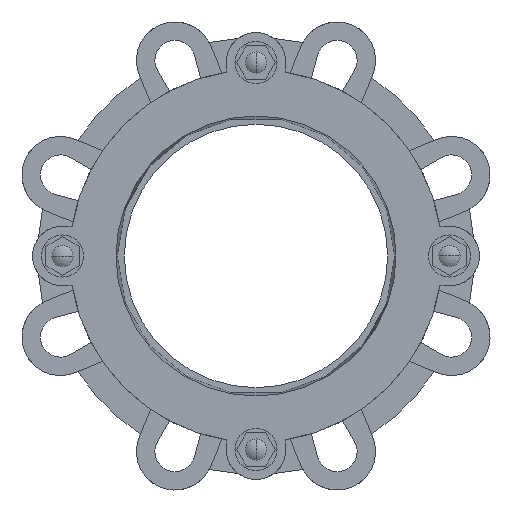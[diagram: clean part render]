
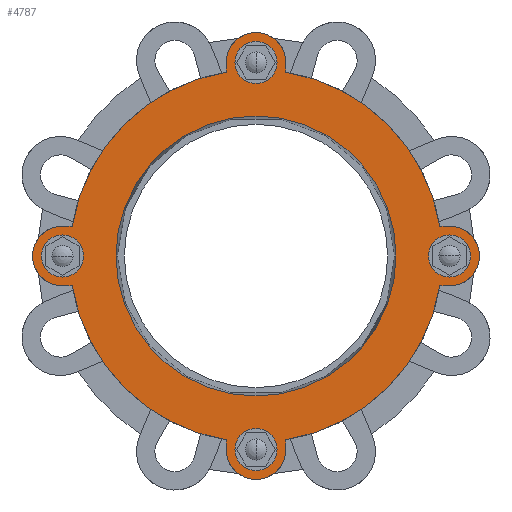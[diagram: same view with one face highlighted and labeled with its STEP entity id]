
A CAD part, left-side view. The second image highlights one B-rep face of the part: STEP entity #4787.
In plain terms, the highlighted planar face has unit normal (-1, 0, 0).
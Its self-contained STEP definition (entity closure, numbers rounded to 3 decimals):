
#1037=CARTESIAN_POINT('',(-98.,0.,0.));
#1038=DIRECTION('',(-1.,0.,0.));
#1039=DIRECTION('',(0.,-0.16,-0.987));
#1040=AXIS2_PLACEMENT_3D('',#1037,#1038,#1039);
#1073=CARTESIAN_POINT('',(-98.,0.,0.));
#1074=DIRECTION('',(-1.,0.,0.));
#1075=DIRECTION('',(0.,0.987,-0.16));
#1076=AXIS2_PLACEMENT_3D('',#1073,#1074,#1075);
#1082=CARTESIAN_POINT('',(-98.,0.,0.));
#1083=DIRECTION('',(-1.,0.,0.));
#1084=DIRECTION('',(0.,0.16,0.987));
#1085=AXIS2_PLACEMENT_3D('',#1082,#1083,#1084);
#1109=CARTESIAN_POINT('',(-98.,0.,0.));
#1110=DIRECTION('',(-1.,0.,0.));
#1111=DIRECTION('',(0.,-0.987,0.16));
#1112=AXIS2_PLACEMENT_3D('',#1109,#1110,#1111);
#1183=DIRECTION('',(0.,0.,-1.));
#1184=VECTOR('',#1183,5.571);
#1185=CARTESIAN_POINT('',(-98.,17.,-104.679));
#1186=LINE('',#1185,#1184);
#1195=CARTESIAN_POINT('',(-98.,0.,-110.25));
#1196=DIRECTION('',(-1.,0.,0.));
#1197=DIRECTION('',(0.,0.,-1.));
#1198=AXIS2_PLACEMENT_3D('',#1195,#1196,#1197);
#1200=CARTESIAN_POINT('',(-98.,0.,-110.25));
#1201=DIRECTION('',(-1.,0.,0.));
#1202=DIRECTION('',(0.,0.,1.));
#1203=AXIS2_PLACEMENT_3D('',#1200,#1201,#1202);
#1205=CARTESIAN_POINT('',(-98.,0.,110.25));
#1206=DIRECTION('',(-1.,0.,0.));
#1207=DIRECTION('',(0.,0.,1.));
#1208=AXIS2_PLACEMENT_3D('',#1205,#1206,#1207);
#1210=CARTESIAN_POINT('',(-98.,0.,110.25));
#1211=DIRECTION('',(-1.,0.,0.));
#1212=DIRECTION('',(0.,0.,-1.));
#1213=AXIS2_PLACEMENT_3D('',#1210,#1211,#1212);
#1215=CARTESIAN_POINT('',(-98.,110.25,0.));
#1216=DIRECTION('',(-1.,0.,0.));
#1217=DIRECTION('',(0.,1.,0.));
#1218=AXIS2_PLACEMENT_3D('',#1215,#1216,#1217);
#1220=CARTESIAN_POINT('',(-98.,110.25,0.));
#1221=DIRECTION('',(-1.,0.,0.));
#1222=DIRECTION('',(0.,-1.,0.));
#1223=AXIS2_PLACEMENT_3D('',#1220,#1221,#1222);
#1225=DIRECTION('',(0.,-1.,0.));
#1226=VECTOR('',#1225,5.571);
#1227=CARTESIAN_POINT('',(-98.,110.25,-17.));
#1228=LINE('',#1227,#1226);
#1229=CARTESIAN_POINT('',(-98.,110.25,0.));
#1230=DIRECTION('',(-1.,0.,0.));
#1231=DIRECTION('',(0.,0.,1.));
#1232=AXIS2_PLACEMENT_3D('',#1229,#1230,#1231);
#1234=DIRECTION('',(0.,1.,0.));
#1235=VECTOR('',#1234,5.571);
#1236=CARTESIAN_POINT('',(-98.,104.679,17.));
#1237=LINE('',#1236,#1235);
#1238=CARTESIAN_POINT('',(-98.,-110.25,0.));
#1239=DIRECTION('',(-1.,0.,0.));
#1240=DIRECTION('',(0.,-1.,0.));
#1241=AXIS2_PLACEMENT_3D('',#1238,#1239,#1240);
#1243=CARTESIAN_POINT('',(-98.,-110.25,0.));
#1244=DIRECTION('',(-1.,0.,0.));
#1245=DIRECTION('',(0.,1.,0.));
#1246=AXIS2_PLACEMENT_3D('',#1243,#1244,#1245);
#1632=DIRECTION('',(0.,0.,1.));
#1633=VECTOR('',#1632,5.571);
#1634=CARTESIAN_POINT('',(-98.,-17.,-110.25));
#1635=LINE('',#1634,#1633);
#1648=CARTESIAN_POINT('',(-98.,0.,-110.25));
#1649=DIRECTION('',(-1.,0.,0.));
#1650=DIRECTION('',(0.,1.,0.));
#1651=AXIS2_PLACEMENT_3D('',#1648,#1649,#1650);
#1943=DIRECTION('',(0.,0.,-1.));
#1944=VECTOR('',#1943,5.572);
#1945=CARTESIAN_POINT('',(-98.,17.,110.25));
#1946=LINE('',#1945,#1944);
#2015=DIRECTION('',(0.,0.,1.));
#2016=VECTOR('',#2015,5.571);
#2017=CARTESIAN_POINT('',(-98.,-17.,104.679));
#2018=LINE('',#2017,#2016);
#2027=CARTESIAN_POINT('',(-98.,0.,110.25));
#2028=DIRECTION('',(-1.,0.,0.));
#2029=DIRECTION('',(0.,-1.,0.));
#2030=AXIS2_PLACEMENT_3D('',#2027,#2028,#2029);
#2050=DIRECTION('',(0.,1.,0.));
#2051=VECTOR('',#2050,5.571);
#2052=CARTESIAN_POINT('',(-98.,-110.25,17.));
#2053=LINE('',#2052,#2051);
#2092=DIRECTION('',(0.,-1.,0.));
#2093=VECTOR('',#2092,5.571);
#2094=CARTESIAN_POINT('',(-98.,-104.679,-17.));
#2095=LINE('',#2094,#2093);
#2104=CARTESIAN_POINT('',(-98.,-110.25,0.));
#2105=DIRECTION('',(-1.,0.,0.));
#2106=DIRECTION('',(0.,0.,-1.));
#2107=AXIS2_PLACEMENT_3D('',#2104,#2105,#2106);
#2173=CARTESIAN_POINT('',(-98.,0.,0.));
#2174=DIRECTION('',(1.,0.,0.));
#2175=DIRECTION('',(0.,1.,0.));
#2176=AXIS2_PLACEMENT_3D('',#2173,#2174,#2175);
#2186=CARTESIAN_POINT('',(-98.,0.,0.));
#2187=DIRECTION('',(-1.,0.,0.));
#2188=DIRECTION('',(0.,1.,0.));
#2189=AXIS2_PLACEMENT_3D('',#2186,#2187,#2188);
#2580=CARTESIAN_POINT('',(-98.,79.75,0.));
#2582=VERTEX_POINT('',#2580);
#2590=CARTESIAN_POINT('',(-98.,-79.75,0.));
#2592=VERTEX_POINT('',#2590);
#2604=CARTESIAN_POINT('',(-98.,110.25,17.));
#2605=CARTESIAN_POINT('',(-98.,110.25,-17.));
#2606=VERTEX_POINT('',#2604);
#2607=VERTEX_POINT('',#2605);
#2609=CARTESIAN_POINT('',(-98.,104.679,17.));
#2611=VERTEX_POINT('',#2609);
#2612=CARTESIAN_POINT('',(-98.,104.679,-17.));
#2614=VERTEX_POINT('',#2612);
#2672=CARTESIAN_POINT('',(-98.,17.,110.25));
#2673=VERTEX_POINT('',#2672);
#2674=CARTESIAN_POINT('',(-98.,-17.,110.25));
#2675=VERTEX_POINT('',#2674);
#2704=CARTESIAN_POINT('',(-98.,-110.25,17.));
#2705=VERTEX_POINT('',#2704);
#2706=CARTESIAN_POINT('',(-98.,-110.25,-17.));
#2707=VERTEX_POINT('',#2706);
#2736=CARTESIAN_POINT('',(-98.,-17.,-110.25));
#2737=VERTEX_POINT('',#2736);
#2738=CARTESIAN_POINT('',(-98.,17.,-110.25));
#2739=VERTEX_POINT('',#2738);
#2748=CARTESIAN_POINT('',(-98.,-17.,104.679));
#2749=VERTEX_POINT('',#2748);
#2750=CARTESIAN_POINT('',(-98.,17.,104.678));
#2751=VERTEX_POINT('',#2750);
#2760=CARTESIAN_POINT('',(-98.,-104.679,-17.));
#2761=VERTEX_POINT('',#2760);
#2762=CARTESIAN_POINT('',(-98.,-104.679,17.));
#2763=VERTEX_POINT('',#2762);
#2774=CARTESIAN_POINT('',(-98.,17.,-104.679));
#2775=VERTEX_POINT('',#2774);
#2776=CARTESIAN_POINT('',(-98.,-17.,-104.679));
#2777=VERTEX_POINT('',#2776);
#2976=CARTESIAN_POINT('',(-98.,122.25,0.));
#2977=CARTESIAN_POINT('',(-98.,98.25,0.));
#2978=VERTEX_POINT('',#2976);
#2979=VERTEX_POINT('',#2977);
#3138=CARTESIAN_POINT('',(-98.,0.,122.25));
#3139=VERTEX_POINT('',#3138);
#3140=CARTESIAN_POINT('',(-98.,0.,98.25));
#3141=VERTEX_POINT('',#3140);
#3150=CARTESIAN_POINT('',(-98.,-122.25,0.));
#3151=VERTEX_POINT('',#3150);
#3152=CARTESIAN_POINT('',(-98.,-98.25,0.));
#3153=VERTEX_POINT('',#3152);
#3162=CARTESIAN_POINT('',(-98.,0.,-122.25));
#3163=VERTEX_POINT('',#3162);
#3164=CARTESIAN_POINT('',(-98.,0.,-98.25));
#3165=VERTEX_POINT('',#3164);
#4723=CARTESIAN_POINT('',(-98.,0.,0.));
#4724=DIRECTION('',(1.,0.,0.));
#4725=DIRECTION('',(0.,-1.,0.));
#4726=AXIS2_PLACEMENT_3D('',#4723,#4724,#4725);
#4727=PLANE('',#4726);
#4728=ORIENTED_EDGE('',*,*,#4554,.F.);
#4730=ORIENTED_EDGE('',*,*,#4729,.F.);
#4732=ORIENTED_EDGE('',*,*,#4731,.F.);
#4733=ORIENTED_EDGE('',*,*,#4713,.F.);
#4734=ORIENTED_EDGE('',*,*,#4580,.F.);
#4736=ORIENTED_EDGE('',*,*,#4735,.F.);
#4738=ORIENTED_EDGE('',*,*,#4737,.F.);
#4740=ORIENTED_EDGE('',*,*,#4739,.F.);
#4741=ORIENTED_EDGE('',*,*,#4600,.F.);
#4743=ORIENTED_EDGE('',*,*,#4742,.F.);
#4745=ORIENTED_EDGE('',*,*,#4744,.F.);
#4747=ORIENTED_EDGE('',*,*,#4746,.F.);
#4748=ORIENTED_EDGE('',*,*,#4623,.F.);
#4750=ORIENTED_EDGE('',*,*,#4749,.F.);
#4752=ORIENTED_EDGE('',*,*,#4751,.F.);
#4754=ORIENTED_EDGE('',*,*,#4753,.F.);
#4755=EDGE_LOOP('',(#4728,#4730,#4732,#4733,#4734,#4736,#4738,#4740,#4741,#4743,
#4745,#4747,#4748,#4750,#4752,#4754));
#4756=FACE_OUTER_BOUND('',#4755,.F.);
#4758=ORIENTED_EDGE('',*,*,#4757,.T.);
#4760=ORIENTED_EDGE('',*,*,#4759,.T.);
#4761=EDGE_LOOP('',(#4758,#4760));
#4762=FACE_BOUND('',#4761,.F.);
#4764=ORIENTED_EDGE('',*,*,#4763,.T.);
#4766=ORIENTED_EDGE('',*,*,#4765,.T.);
#4767=EDGE_LOOP('',(#4764,#4766));
#4768=FACE_BOUND('',#4767,.F.);
#4770=ORIENTED_EDGE('',*,*,#4769,.T.);
#4772=ORIENTED_EDGE('',*,*,#4771,.T.);
#4773=EDGE_LOOP('',(#4770,#4772));
#4774=FACE_BOUND('',#4773,.F.);
#4776=ORIENTED_EDGE('',*,*,#4775,.F.);
#4778=ORIENTED_EDGE('',*,*,#4777,.T.);
#4779=EDGE_LOOP('',(#4776,#4778));
#4780=FACE_BOUND('',#4779,.F.);
#4782=ORIENTED_EDGE('',*,*,#4781,.T.);
#4784=ORIENTED_EDGE('',*,*,#4783,.T.);
#4785=EDGE_LOOP('',(#4782,#4784));
#4786=FACE_BOUND('',#4785,.F.);
#4787=ADVANCED_FACE('',(#4756,#4762,#4768,#4774,#4780,#4786),#4727,.F.);
#1041=CIRCLE('',#1040,106.05);
#1077=CIRCLE('',#1076,106.05);
#1086=CIRCLE('',#1085,106.05);
#1113=CIRCLE('',#1112,106.05);
#1199=CIRCLE('',#1198,12.);
#1204=CIRCLE('',#1203,12.);
#1209=CIRCLE('',#1208,12.);
#1214=CIRCLE('',#1213,12.);
#1219=CIRCLE('',#1218,12.);
#1224=CIRCLE('',#1223,12.);
#1233=CIRCLE('',#1232,17.);
#1242=CIRCLE('',#1241,12.);
#1247=CIRCLE('',#1246,12.);
#1652=CIRCLE('',#1651,17.);
#2031=CIRCLE('',#2030,17.);
#2108=CIRCLE('',#2107,17.);
#2177=CIRCLE('',#2176,79.75);
#2190=CIRCLE('',#2189,79.75);
#4554=EDGE_CURVE('',#2777,#2761,#1041,.T.);
#4580=EDGE_CURVE('',#2614,#2775,#1077,.T.);
#4600=EDGE_CURVE('',#2751,#2611,#1086,.T.);
#4623=EDGE_CURVE('',#2763,#2749,#1113,.T.);
#4713=EDGE_CURVE('',#2775,#2739,#1186,.T.);
#4729=EDGE_CURVE('',#2737,#2777,#1635,.T.);
#4731=EDGE_CURVE('',#2739,#2737,#1652,.T.);
#4735=EDGE_CURVE('',#2607,#2614,#1228,.T.);
#4737=EDGE_CURVE('',#2606,#2607,#1233,.T.);
#4739=EDGE_CURVE('',#2611,#2606,#1237,.T.);
#4742=EDGE_CURVE('',#2673,#2751,#1946,.T.);
#4744=EDGE_CURVE('',#2675,#2673,#2031,.T.);
#4746=EDGE_CURVE('',#2749,#2675,#2018,.T.);
#4749=EDGE_CURVE('',#2705,#2763,#2053,.T.);
#4751=EDGE_CURVE('',#2707,#2705,#2108,.T.);
#4753=EDGE_CURVE('',#2761,#2707,#2095,.T.);
#4757=EDGE_CURVE('',#3139,#3141,#1209,.T.);
#4759=EDGE_CURVE('',#3141,#3139,#1214,.T.);
#4763=EDGE_CURVE('',#2978,#2979,#1219,.T.);
#4765=EDGE_CURVE('',#2979,#2978,#1224,.T.);
#4769=EDGE_CURVE('',#3163,#3165,#1199,.T.);
#4771=EDGE_CURVE('',#3165,#3163,#1204,.T.);
#4775=EDGE_CURVE('',#2582,#2592,#2177,.T.);
#4777=EDGE_CURVE('',#2582,#2592,#2190,.T.);
#4781=EDGE_CURVE('',#3151,#3153,#1242,.T.);
#4783=EDGE_CURVE('',#3153,#3151,#1247,.T.);
